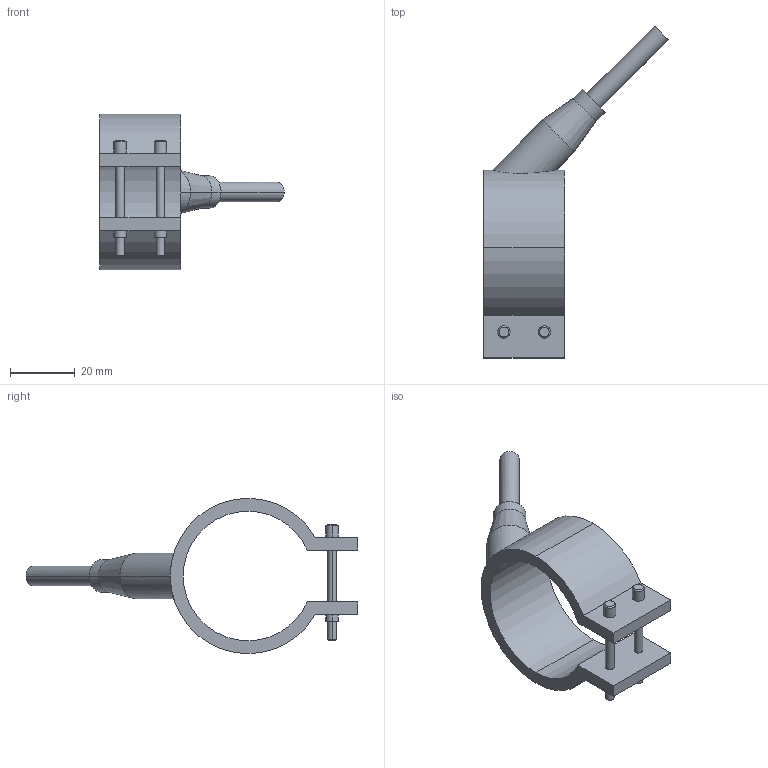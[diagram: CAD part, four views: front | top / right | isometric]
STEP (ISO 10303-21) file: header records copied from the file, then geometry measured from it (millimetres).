
FILE_DESCRIPTION(('CATIA V5 STEP Exchange'),'2;1');
FILE_NAME('C:\Users\Utente\Desktop\IO LAVORO\3D X SITO CF\X SITO\PLASTICA\RF1\29040025.stp','2021-03-27T08:58:20+00:00',('none'),('none'),'CATIA Version 5 Release 20 GA (IN-10)','CATIA V5 STEP AP203','none');
FILE_SCHEMA(('CONFIG_CONTROL_DESIGN'));
Length unit declared in the file: millimetre
Products named in the file (1): 29040025
Bounding box: 57.05 x 102.55 x 48 mm (x, y, z)
Volume: 19821.8 mm3; surface area: 10835.3 mm2
Topology: 1 solids, 1 shells, 54 faces, 124 edges, 80 vertices
Faces by surface type: cylinder 28, plane 16, cone 10
Entity records: 1724 total; most frequent: CARTESIAN_POINT 487, ORIENTED_EDGE 248, DIRECTION 213, EDGE_CURVE 124, AXIS2_PLACEMENT_3D 106, VERTEX_POINT 80, EDGE_LOOP 66, VECTOR 56
